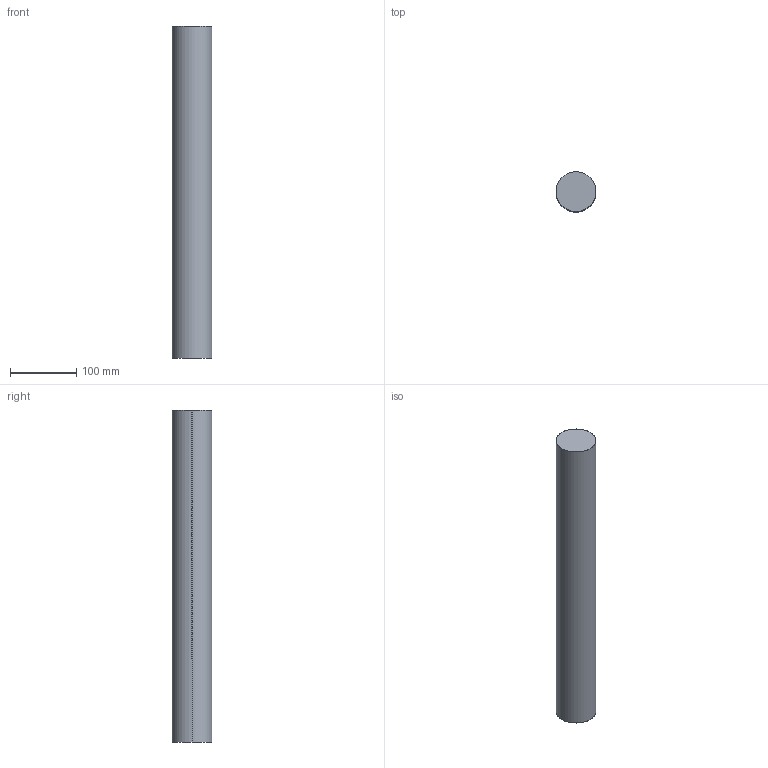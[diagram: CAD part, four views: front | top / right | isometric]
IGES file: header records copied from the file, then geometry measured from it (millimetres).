
Start section: SolidWorks IGES file using analytic representation for surfaces
Global section: file name: R:\Inventor\Kundmodeller Solidworks\Fästen\Mounting column Ø60x500 041J004335.IGS; native system: SolidWorks 2008; preprocessor: SolidWorks 2008; author: Johan; date: 091015.081452; units: millimetre
Bounding box: 60 x 60 x 500 mm (x, y, z)
Surface area: 99902.7 mm2 (no closed solid volume)
Topology: 0 solids, 0 shells, 4 faces, 136 edges, 136 vertices
Faces by surface type: revolution 2, bspline 2
